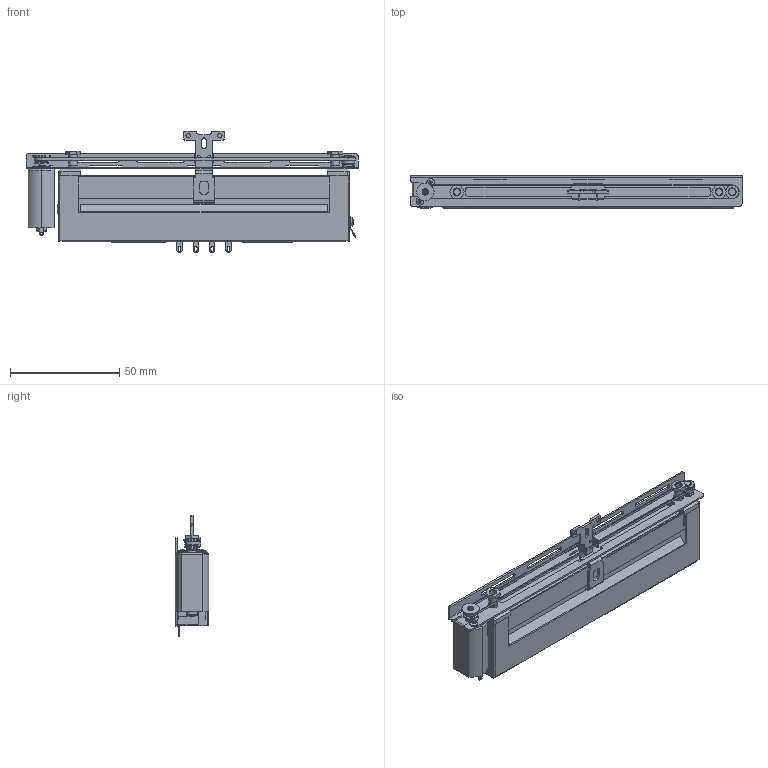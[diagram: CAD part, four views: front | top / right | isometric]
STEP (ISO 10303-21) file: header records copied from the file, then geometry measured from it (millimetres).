
FILE_DESCRIPTION(('FreeCAD Model'),'2;1');
FILE_NAME('Open CASCADE Shape Model','2023-06-16T15:28:12',(''),(''), 'Open CASCADE STEP processor 7.6','FreeCAD','Unknown');
FILE_SCHEMA(('AUTOMOTIVE_DESIGN { 1 0 10303 214 1 1 1 1 }'));
Products named in the file (1): MF-9101-Bxx-M8V
Bounding box: 152 x 15.47 x 55.5 mm (x, y, z)
Volume: 56346 mm3; surface area: 34332.9 mm2
Topology: 1 solids, 11 shells, 966 faces, 2474 edges, 1554 vertices
Faces by surface type: plane 646, cylinder 224, cone 57, bspline 19, torus 10, sphere 5, revolution 5
Full cylindrical faces by diameter (mm): 1.1 x2, 1.2 x6, 1.25 x2, 1.3 x1, 1.5 x4, 1.6 x2, 2 x14, 2.2 x8, 2.6 x3, 3 x9, 3.2 x2, 3.5 x3, 3.6 x2, 3.7 x1, 4 x12, 4.5 x2, 4.7 x2, 5 x2, 5.38 x1, 5.6 x1, 6 x2, 6.5 x1, 8 x1
Entity records: 66009 total; most frequent: CARTESIAN_POINT 14213, DIRECTION 8544, ORIENTED_EDGE 4940, PCURVE 4934, DEFINITIONAL_REPRESENTATION 4934, LINE 4789, VECTOR 4789, EDGE_CURVE 2467
